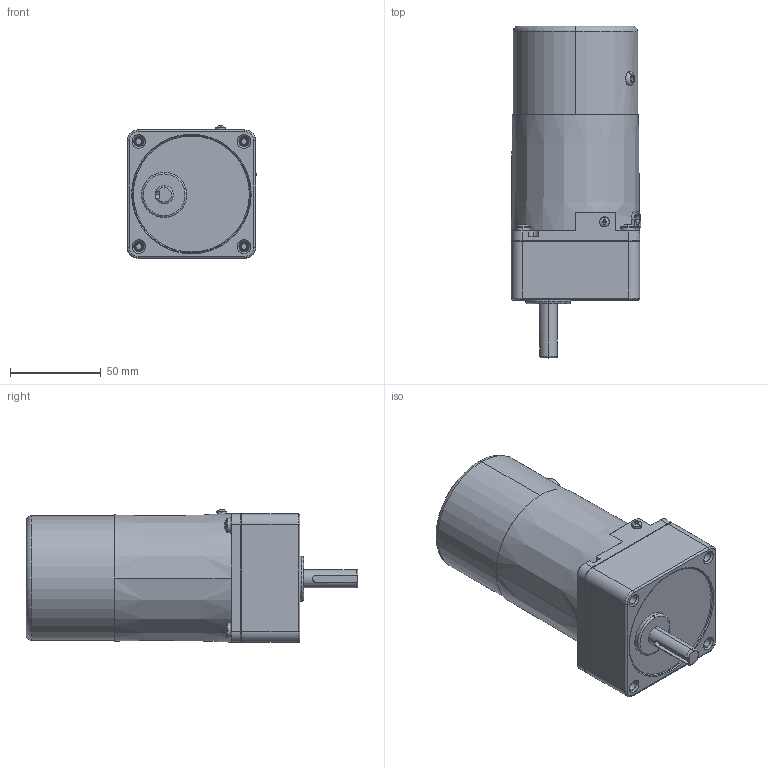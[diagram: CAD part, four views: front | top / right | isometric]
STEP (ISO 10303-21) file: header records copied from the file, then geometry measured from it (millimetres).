
FILE_DESCRIPTION (( 'STEP AP203' ), '1' );
FILE_NAME ('3RK15GN-CM(3GN3K-18K).STEP', '2023-07-27T07:49:31', ( 'Windows User' ), ( 'P R C' ), 'SwSTEP 2.0', 'SolidWorks 2019', '' );
FILE_SCHEMA (( 'CONFIG_CONTROL_DESIGN' ));
Length unit declared in the file: millimetre
Products named in the file (16): 3RK15GN-CM_6_AF0^3RK15GN-CM-3GN3K-200K_ASM_1_AF0_ASM_ASM0006_ASM_3RK15GN-CM-3GN3K-200K_ASM_ASM_ASM_3RK15GN-CM(3GN3K-18K)(2)_3RK15GN-CM(3GN3K-18K); 60SCHXQ_1^ASM0006_ASM_3RK15GN-CM-3GN3K-200K_ASM_ASM_ASM_3RK15GN-CM(3GN3K-18K)(2)_3RK15GN-CM(3GN3K-18K); 3RK15GN-CM(3GN3K-18K)(2)^3RK15GN-CM(3GN3K-18K); 3RK15GN-CM-3GN3K-200K_ASM_ASM_ASM^3RK15GN-CM(3GN3K-18K)(2)_3RK15GN-CM(3GN3K-18K); PRT0203^ASM0006_ASM_3RK15GN-CM-3GN3K-200K_ASM_ASM_ASM_3RK15GN-CM(3GN3K-18K)(2)_3RK15GN-CM(3GN3K-18K); PRT0004; 3RK15GN-CM(3GN3K-18K); PRT0204^ASM0006_ASM_3RK15GN-CM-3GN3K-200K_ASM_ASM_ASM_3RK15GN-CM(3GN3K-18K)(2)_3RK15GN-CM(3GN3K-18K); 3GN3K-18K; PRT0205^ASM0006_ASM_3RK15GN-CM-3GN3K-200K_ASM_ASM_ASM_3RK15GN-CM(3GN3K-18K)(2)_3RK15GN-CM(3GN3K-18K); 3GN3K-18K_ASM; PRT0202^ASM0006_ASM_3RK15GN-CM-3GN3K-200K_ASM_ASM_ASM_3RK15GN-CM(3GN3K-18K)(2)_3RK15GN-CM(3GN3K-18K); PRT0206^ASM0006_ASM_3RK15GN-CM-3GN3K-200K_ASM_ASM_ASM_3RK15GN-CM(3GN3K-18K)(2)_3RK15GN-CM(3GN3K-18K); 3RK15GN-CM-3GN3K-200K_ASM_1_AF0_ASM^ASM0006_ASM_3RK15GN-CM-3GN3K-200K_ASM_ASM_ASM_3RK15GN-CM(3GN3K-18K)(2)_3RK15GN-CM(3GN3K-18K); ASM0006_ASM^3RK15GN-CM-3GN3K-200K_ASM_ASM_ASM_3RK15GN-CM(3GN3K-18K)(2)_3RK15GN-CM(3GN3K-18K); ____53
Assembly tree (18 placements, depth 6):
  3RK15GN-CM(3GN3K-18K)
    3RK15GN-CM(3GN3K-18K)(2)^3RK15GN-CM(3GN3K-18K)
      3RK15GN-CM-3GN3K-200K_ASM_ASM_ASM^3RK15GN-CM(3GN3K-18K)(2)_3RK15GN-CM(3GN3K-18K)
        ASM0006_ASM^3RK15GN-CM-3GN3K-200K_ASM_ASM_ASM_3RK15GN-CM(3GN3K-18K)(2)_3RK15GN-CM(3GN3K-18K)
          3RK15GN-CM-3GN3K-200K_ASM_1_AF0_ASM^ASM0006_ASM_3RK15GN-CM-3GN3K-200K_ASM_ASM_ASM_3RK15GN-CM(3GN3K-18K)(2)_3RK15GN-CM(3GN3K-18K)
            3RK15GN-CM_6_AF0^3RK15GN-CM-3GN3K-200K_ASM_1_AF0_ASM_ASM0006_ASM_3RK15GN-CM-3GN3K-200K_ASM_ASM_ASM_3RK15GN-CM(3GN3K-18K)(2)_3RK15GN-CM(3GN3K-18K)
          PRT0202^ASM0006_ASM_3RK15GN-CM-3GN3K-200K_ASM_ASM_ASM_3RK15GN-CM(3GN3K-18K)(2)_3RK15GN-CM(3GN3K-18K)
          PRT0203^ASM0006_ASM_3RK15GN-CM-3GN3K-200K_ASM_ASM_ASM_3RK15GN-CM(3GN3K-18K)(2)_3RK15GN-CM(3GN3K-18K)
          PRT0204^ASM0006_ASM_3RK15GN-CM-3GN3K-200K_ASM_ASM_ASM_3RK15GN-CM(3GN3K-18K)(2)_3RK15GN-CM(3GN3K-18K)
          PRT0205^ASM0006_ASM_3RK15GN-CM-3GN3K-200K_ASM_ASM_ASM_3RK15GN-CM(3GN3K-18K)(2)_3RK15GN-CM(3GN3K-18K)
          60SCHXQ_1^ASM0006_ASM_3RK15GN-CM-3GN3K-200K_ASM_ASM_ASM_3RK15GN-CM(3GN3K-18K)(2)_3RK15GN-CM(3GN3K-18K)
          PRT0206^ASM0006_ASM_3RK15GN-CM-3GN3K-200K_ASM_ASM_ASM_3RK15GN-CM(3GN3K-18K)(2)_3RK15GN-CM(3GN3K-18K)  x4
    3GN3K-18K
      3GN3K-18K_ASM
        PRT0004
        ____53
Bounding box: 71.46 x 183.02 x 73.06 mm (x, y, z)
Volume: 290088.8 mm3; surface area: 96986.2 mm2
Topology: 12 solids, 12 shells, 1321 faces, 3422 edges, 2131 vertices
Faces by surface type: cone 648, cylinder 382, plane 201, torus 70, sphere 20
Entity records: 28323 total; most frequent: CARTESIAN_POINT 5355, DIRECTION 5002, ORIENTED_EDGE 4268, EDGE_CURVE 2134, AXIS2_PLACEMENT_3D 2112, VERTEX_POINT 1336, CIRCLE 1250, EDGE_LOOP 880
